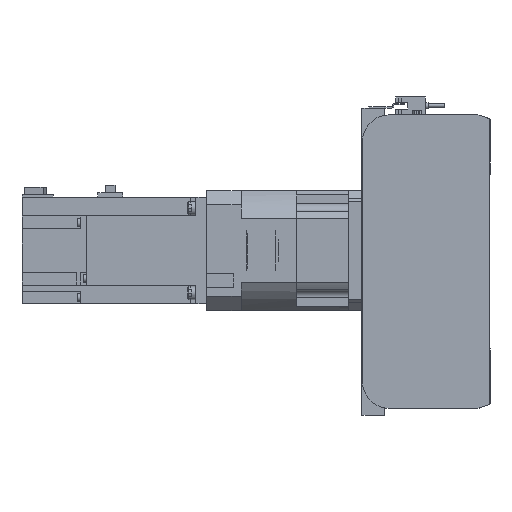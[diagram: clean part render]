
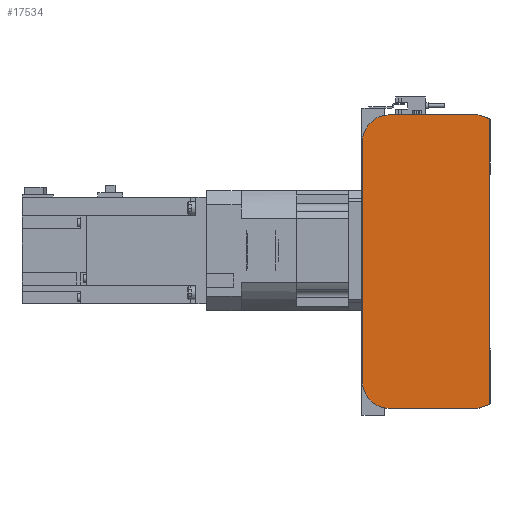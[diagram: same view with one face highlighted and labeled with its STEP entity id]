
A CAD part, left-side view. The second image highlights one B-rep face of the part: STEP entity #17534.
In plain terms, the highlighted planar face has unit normal (-1, 0, 0).
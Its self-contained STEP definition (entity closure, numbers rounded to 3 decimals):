
#992=CIRCLE('',#19123,20.);
#993=CIRCLE('',#19126,20.);
#4442=ORIENTED_EDGE('',*,*,#7624,.F.);
#4443=ORIENTED_EDGE('',*,*,#7666,.F.);
#4444=ORIENTED_EDGE('',*,*,#7664,.F.);
#4445=ORIENTED_EDGE('',*,*,#7662,.F.);
#4446=ORIENTED_EDGE('',*,*,#7651,.F.);
#4447=ORIENTED_EDGE('',*,*,#7642,.F.);
#4448=ORIENTED_EDGE('',*,*,#7638,.F.);
#4449=ORIENTED_EDGE('',*,*,#7635,.F.);
#7624=EDGE_CURVE('',#9559,#9560,#11131,.T.);
#7635=EDGE_CURVE('',#9560,#9567,#11142,.T.);
#7638=EDGE_CURVE('',#9567,#9569,#11145,.T.);
#7642=EDGE_CURVE('',#9569,#9570,#11149,.T.);
#7651=EDGE_CURVE('',#9570,#9576,#11158,.T.);
#7662=EDGE_CURVE('',#9576,#9583,#992,.T.);
#7664=EDGE_CURVE('',#9583,#9584,#11170,.T.);
#7666=EDGE_CURVE('',#9584,#9559,#993,.T.);
#9559=VERTEX_POINT('',#28841);
#9560=VERTEX_POINT('',#28843);
#9567=VERTEX_POINT('',#28862);
#9569=VERTEX_POINT('',#28868);
#9570=VERTEX_POINT('',#28874);
#9576=VERTEX_POINT('',#28890);
#9583=VERTEX_POINT('',#28909);
#9584=VERTEX_POINT('',#28913);
#11131=LINE('',#28842,#12698);
#11142=LINE('',#28861,#12709);
#11145=LINE('',#28867,#12712);
#11149=LINE('',#28873,#12716);
#11158=LINE('',#28889,#12725);
#11170=LINE('',#28912,#12737);
#12698=VECTOR('',#23214,1000.);
#12709=VECTOR('',#23227,1000.);
#12712=VECTOR('',#23232,1000.);
#12716=VECTOR('',#23238,1000.);
#12725=VECTOR('',#23249,1000.);
#12737=VECTOR('',#23267,1000.);
#14122=EDGE_LOOP('',(#4442,#4443,#4444,#4445,#4446,#4447,#4448,#4449));
#15674=FACE_BOUND('',#14122,.T.);
#16665=PLANE('',#19127);
#17534=ADVANCED_FACE('',(#15674),#16665,.F.);
#19123=AXIS2_PLACEMENT_3D('',#28908,#23262,#23263);
#19126=AXIS2_PLACEMENT_3D('',#28916,#23271,#23272);
#19127=AXIS2_PLACEMENT_3D('',#28917,#23273,#23274);
#23214=DIRECTION('',(0.,-1.,0.));
#23227=DIRECTION('',(0.,-0.945,-0.328));
#23232=DIRECTION('',(0.,0.,-1.));
#23238=DIRECTION('',(0.,0.945,-0.328));
#23249=DIRECTION('',(0.,1.,0.));
#23262=DIRECTION('',(1.,0.,0.));
#23263=DIRECTION('',(0.,0.,-1.));
#23267=DIRECTION('',(0.,0.,1.));
#23271=DIRECTION('',(1.,0.,0.));
#23272=DIRECTION('',(0.,0.,-1.));
#23273=DIRECTION('',(1.,0.,0.));
#23274=DIRECTION('',(0.,0.,-1.));
#28841=CARTESIAN_POINT('',(0.,75.5,110.));
#28842=CARTESIAN_POINT('',(0.,75.5,110.));
#28843=CARTESIAN_POINT('',(0.,9.,110.));
#28861=CARTESIAN_POINT('',(0.,9.,110.));
#28862=CARTESIAN_POINT('',(0.,0.5,107.05));
#28867=CARTESIAN_POINT('',(0.,0.5,107.05));
#28868=CARTESIAN_POINT('',(0.,0.5,-107.05));
#28873=CARTESIAN_POINT('',(0.,0.5,-107.05));
#28874=CARTESIAN_POINT('',(0.,9.,-110.));
#28889=CARTESIAN_POINT('',(0.,9.,-110.));
#28890=CARTESIAN_POINT('',(0.,75.5,-110.));
#28908=CARTESIAN_POINT('',(0.,75.5,-90.));
#28909=CARTESIAN_POINT('',(0.,95.5,-90.));
#28912=CARTESIAN_POINT('',(0.,95.5,-90.));
#28913=CARTESIAN_POINT('',(0.,95.5,90.));
#28916=CARTESIAN_POINT('',(0.,75.5,90.));
#28917=CARTESIAN_POINT('',(0.,75.5,-90.));
